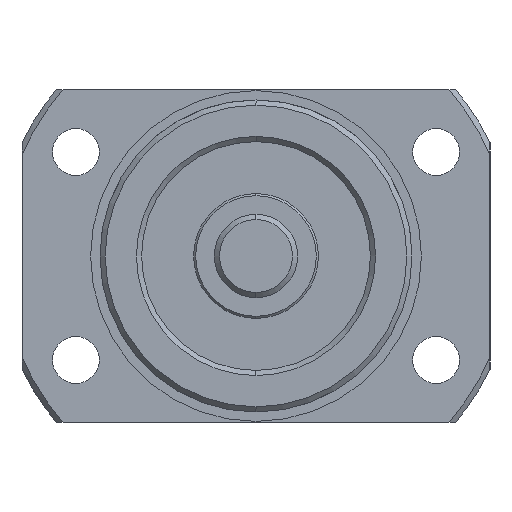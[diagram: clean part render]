
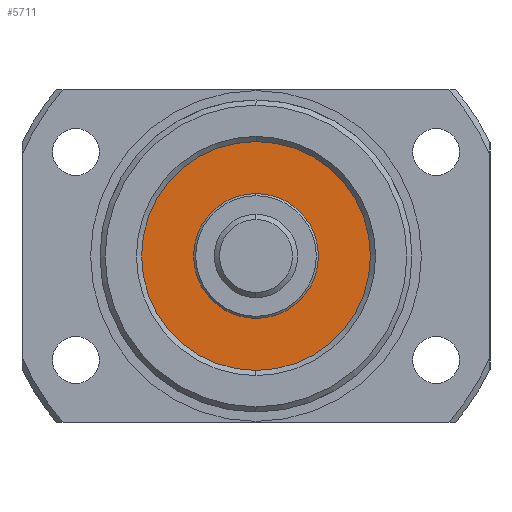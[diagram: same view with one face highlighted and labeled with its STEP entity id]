
A CAD part, left-side view. The second image highlights one B-rep face of the part: STEP entity #5711.
In plain terms, the highlighted planar face has unit normal (-1, 0, 0).
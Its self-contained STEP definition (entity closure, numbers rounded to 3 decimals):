
#499 = VERTEX_POINT ( 'NONE', #554 ) ;
#554 = CARTESIAN_POINT ( 'NONE',  ( -39.5, 0., 11. ) ) ;
#806 = DIRECTION ( 'NONE',  ( -1., 0., 0. ) ) ;
#807 = CARTESIAN_POINT ( 'NONE',  ( -39.5, 0., 0. ) ) ;
#811 = PLANE ( 'NONE',  #6068 ) ;
#813 = DIRECTION ( 'NONE',  ( 0., 0., 1. ) ) ;
#1281 = CARTESIAN_POINT ( 'NONE',  ( -39.5, 0., 0. ) ) ;
#1282 = DIRECTION ( 'NONE',  ( -1., 0., 0. ) ) ;
#1283 = DIRECTION ( 'NONE',  ( 0., 0., 1. ) ) ;
#1291 = CARTESIAN_POINT ( 'NONE',  ( -39.5, 0., 0. ) ) ;
#1427 = FACE_BOUND ( 'NONE', #4151, .T. ) ;
#1435 = FACE_OUTER_BOUND ( 'NONE', #4158, .T. ) ;
#1593 = EDGE_CURVE ( 'NONE', #3618, #3642, #4521, .T. ) ;
#1596 = EDGE_CURVE ( 'NONE', #499, #3626, #4525, .T. ) ;
#1600 = EDGE_CURVE ( 'NONE', #3626, #499, #4529, .T. ) ;
#1602 = EDGE_CURVE ( 'NONE', #3642, #3618, #4535, .T. ) ;
#2158 = AXIS2_PLACEMENT_3D ( 'NONE', #1281, #1282, #1283 ) ;
#2160 = AXIS2_PLACEMENT_3D ( 'NONE', #1291, #3357, #2273 ) ;
#2162 = AXIS2_PLACEMENT_3D ( 'NONE', #2279, #2280, #2281 ) ;
#2164 = AXIS2_PLACEMENT_3D ( 'NONE', #2287, #2288, #2289 ) ;
#2273 = DIRECTION ( 'NONE',  ( 0., 0., 1. ) ) ;
#2279 = CARTESIAN_POINT ( 'NONE',  ( -39.5, 0., 0. ) ) ;
#2280 = DIRECTION ( 'NONE',  ( -1., 0., 0. ) ) ;
#2281 = DIRECTION ( 'NONE',  ( 0., 0., 1. ) ) ;
#2287 = CARTESIAN_POINT ( 'NONE',  ( -39.5, 0., 0. ) ) ;
#2288 = DIRECTION ( 'NONE',  ( -1., 0., 0. ) ) ;
#2289 = DIRECTION ( 'NONE',  ( 0., 0., 1. ) ) ;
#3051 = CARTESIAN_POINT ( 'NONE',  ( -39.5, 0., -6. ) ) ;
#3058 = CARTESIAN_POINT ( 'NONE',  ( -39.5, 0., -11. ) ) ;
#3074 = CARTESIAN_POINT ( 'NONE',  ( -39.5, 0., 6. ) ) ;
#3357 = DIRECTION ( 'NONE',  ( -1., 0., 0. ) ) ;
#3618 = VERTEX_POINT ( 'NONE', #3051 ) ;
#3626 = VERTEX_POINT ( 'NONE', #3058 ) ;
#3642 = VERTEX_POINT ( 'NONE', #3074 ) ;
#4151 = EDGE_LOOP ( 'NONE', ( #6340, #6341 ) ) ;
#4158 = EDGE_LOOP ( 'NONE', ( #6342, #6343 ) ) ;
#4521 = CIRCLE ( 'NONE', #2158, 6. ) ;
#4525 = CIRCLE ( 'NONE', #2160, 11. ) ;
#4529 = CIRCLE ( 'NONE', #2162, 11. ) ;
#4535 = CIRCLE ( 'NONE', #2164, 6. ) ;
#5711 = ADVANCED_FACE ( 'NONE', ( #1427, #1435 ), #811, .T. ) ;
#6068 = AXIS2_PLACEMENT_3D ( 'NONE', #807, #806, #813 ) ;
#6340 = ORIENTED_EDGE ( 'NONE', *, *, #1593, .F. ) ;
#6341 = ORIENTED_EDGE ( 'NONE', *, *, #1602, .F. ) ;
#6342 = ORIENTED_EDGE ( 'NONE', *, *, #1600, .T. ) ;
#6343 = ORIENTED_EDGE ( 'NONE', *, *, #1596, .T. ) ;
